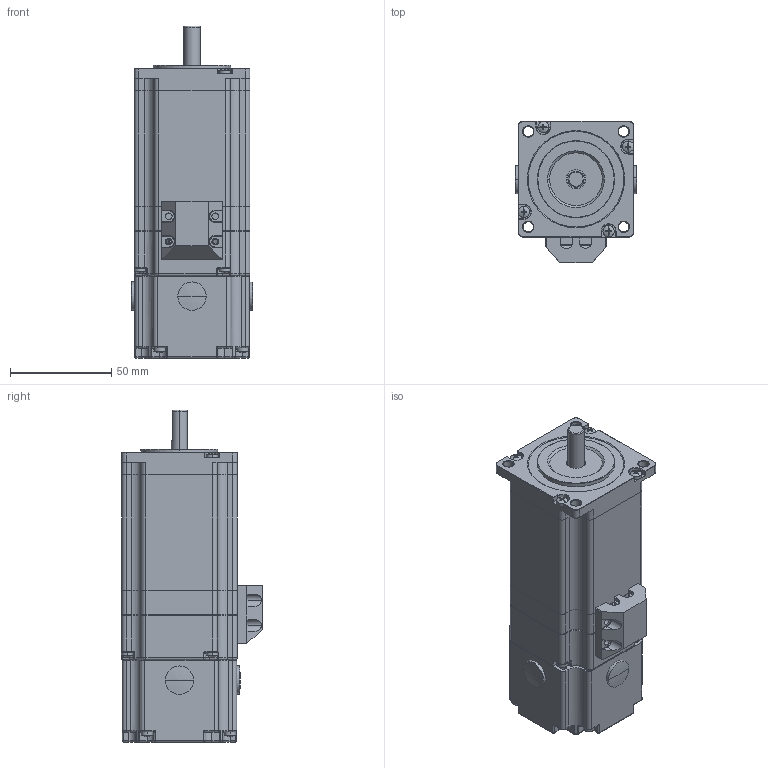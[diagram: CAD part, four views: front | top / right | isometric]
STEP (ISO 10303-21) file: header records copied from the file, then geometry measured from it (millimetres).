
FILE_DESCRIPTION (( 'STEP AP203' ), '1' );
FILE_NAME ('YK257EC80E1-SC.STEP', '2020-07-08T02:28:30', ( '' ), ( '' ), 'SwSTEP 2.0', 'SolidWorks 2016', '' );
FILE_SCHEMA (( 'CONFIG_CONTROL_DESIGN' ));
Length unit declared in the file: millimetre
Products named in the file (12): 57BK-綴欶; YK257EC 粣; YK257EC 坋趼羞攫芛蹟隊; 57BK-橡胶塞; cross recessed pan head screws gb_GB_CROSS_SCREWS_TYPE1 M3X20-20  H type-C; YK257EC 綴裔; YK257萇儂晤鎢ん欶; 257萇儂萇擢揤啣; YK257EC80E1-SC; YK257EC 隅赽; 57BK; YK257EC ヶ裔
Assembly tree (23 placements, depth 3):
  YK257EC80E1-SC
    YK257EC ヶ裔
    YK257EC 綴裔
    YK257EC 隅赽
    YK257EC 粣
    YK257EC 坋趼羞攫芛蹟隊  x4
    YK257萇儂晤鎢ん欶
    257萇儂萇擢揤啣
    57BK
      57BK-綴欶
      57BK-橡胶塞  x3
    cross recessed pan head screws gb_GB_CROSS_SCREWS_TYPE1 M3X20-20  H type-C  x8
Bounding box: 60.1 x 69.72 x 164 mm (x, y, z)
Volume: 209348.9 mm3; surface area: 99642.3 mm2
Topology: 22 solids, 22 shells, 2482 faces, 5572 edges, 3119 vertices
Faces by surface type: cone 1321, cylinder 504, plane 456, torus 115, bspline 46, sphere 40
Entity records: 39054 total; most frequent: CARTESIAN_POINT 7988, DIRECTION 6633, ORIENTED_EDGE 5948, EDGE_CURVE 2974, AXIS2_PLACEMENT_3D 2581, VERTEX_POINT 1744, VECTOR 1471, LINE 1471
